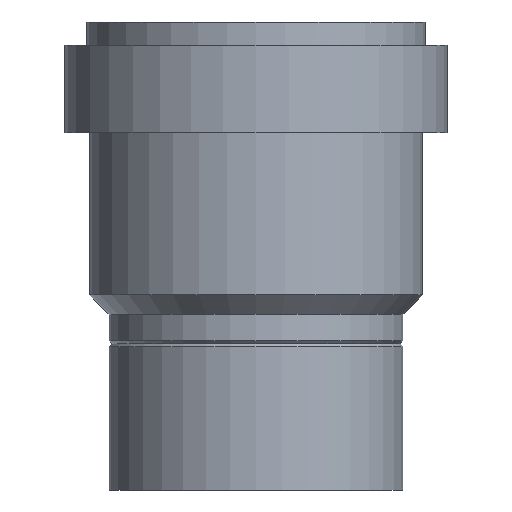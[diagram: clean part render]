
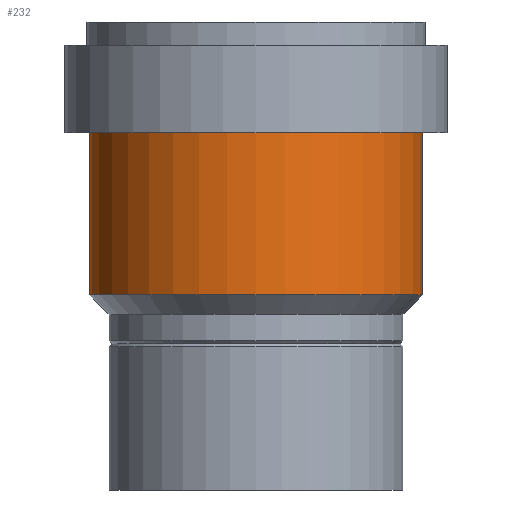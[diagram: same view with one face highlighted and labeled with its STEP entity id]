
A CAD part, front view. The second image highlights one B-rep face of the part: STEP entity #232.
In plain terms, the highlighted cylindrical face has radius 28.475 mm (diameter 56.95 mm), a full revolution.
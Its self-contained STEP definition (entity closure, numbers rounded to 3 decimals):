
#23=CYLINDRICAL_SURFACE('',#281,28.475);
#37=FACE_BOUND('',#84,.T.);
#56=FACE_OUTER_BOUND('',#83,.T.);
#83=EDGE_LOOP('',(#178));
#84=EDGE_LOOP('',(#179));
#114=CIRCLE('',#280,28.475);
#115=CIRCLE('',#282,28.475);
#133=VERTEX_POINT('',#406);
#134=VERTEX_POINT('',#409);
#152=EDGE_CURVE('',#133,#133,#114,.T.);
#153=EDGE_CURVE('',#134,#134,#115,.T.);
#178=ORIENTED_EDGE('',*,*,#152,.T.);
#179=ORIENTED_EDGE('',*,*,#153,.F.);
#232=ADVANCED_FACE('',(#56,#37),#23,.T.);
#280=AXIS2_PLACEMENT_3D('',#407,#337,#338);
#281=AXIS2_PLACEMENT_3D('',#408,#339,#340);
#282=AXIS2_PLACEMENT_3D('',#410,#341,#342);
#337=DIRECTION('center_axis',(0.,0.,-1.));
#338=DIRECTION('ref_axis',(1.,0.,0.));
#339=DIRECTION('center_axis',(0.,0.,-1.));
#340=DIRECTION('ref_axis',(-1.,0.,0.));
#341=DIRECTION('center_axis',(0.,0.,-1.));
#342=DIRECTION('ref_axis',(1.,0.,0.));
#406=CARTESIAN_POINT('',(-28.475,0.,-18.95));
#407=CARTESIAN_POINT('Origin',(0.,0.,-18.95));
#408=CARTESIAN_POINT('Origin',(0.,0.,-32.8));
#409=CARTESIAN_POINT('',(-28.475,0.,-46.65));
#410=CARTESIAN_POINT('Origin',(0.,0.,-46.65));
